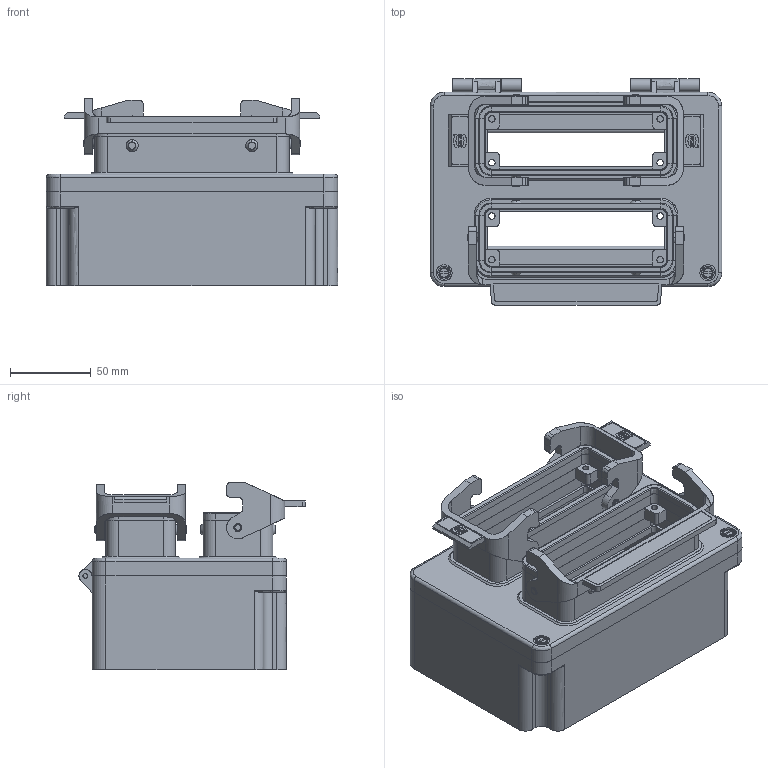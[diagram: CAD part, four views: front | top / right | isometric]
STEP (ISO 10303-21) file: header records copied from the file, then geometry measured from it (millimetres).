
FILE_DESCRIPTION( ( 'STEP AP214' ), '1' );
FILE_NAME( 'C:/Dokumente und Einstellungen/Administrator/Desktop/47 Kabelboxen/G4/14/gr_4_24e_24e-ab.stp', '2006-09-10T21:10:26', ( ' ' ), ( ' ' ), 'XStep 1.0', 'VISICAD', ' ' );
FILE_SCHEMA( ( 'automotive_design' ) );
Length unit declared in the file: millimetre
Products named in the file (1486): 1; 2; 3; 4; 5; 6; 7; 8; 9; 10; 11; 12; 13; 14; 15; 16; 17; 18; 19; 20; 21; 22; 23; 24; 25; 26; 27; 28; 29; 30; 31; 32; 33; 34; 35; 36; 37; 38; 39; 40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
Bounding box: 180 x 139.7 x 115.9 mm (x, y, z)
Surface area: 217125.1 mm2 (no closed solid volume)
Topology: 0 solids, 1486 shells, 1486 faces, 7502 edges, 7494 vertices
Faces by surface type: plane 818, bspline 320, revolution 244, cylinder 104
Full cylindrical faces by diameter (mm): 0.76 x2, 0.84 x2, 5.1 x4
Entity records: 155118 total; most frequent: CARTESIAN_POINT 65073, DIRECTION 11298, ORIENTED_EDGE 7494, EDGE_CURVE 7494, VERTEX_POINT 7494, LINE 4714, VECTOR 4714, AXIS2_PLACEMENT_3D 3170
